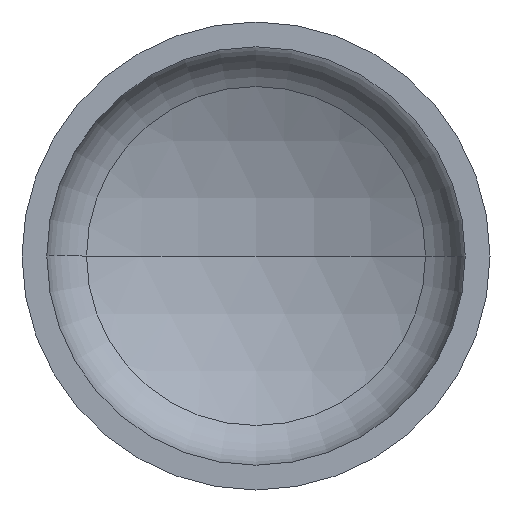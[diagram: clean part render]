
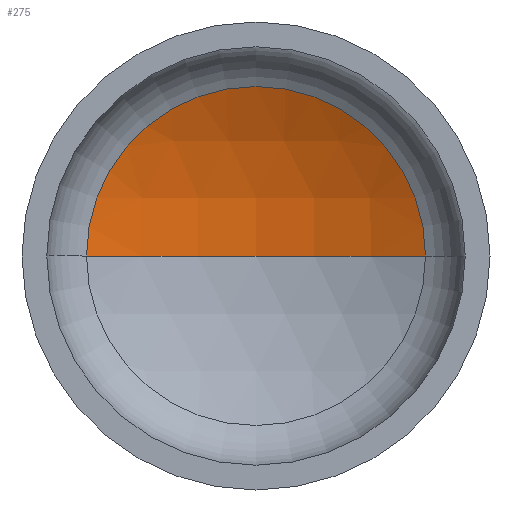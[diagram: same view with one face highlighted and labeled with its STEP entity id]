
A CAD part, front view. The second image highlights one B-rep face of the part: STEP entity #275.
In plain terms, the highlighted spherical face has radius 1600 mm.
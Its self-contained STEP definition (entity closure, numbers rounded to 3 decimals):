
#10 = VERTEX_POINT ( 'NONE', #263 ) ;
#15 = ORIENTED_EDGE ( 'NONE', *, *, #227, .F. ) ;
#29 = AXIS2_PLACEMENT_3D ( 'NONE', #141, #118, #144 ) ;
#37 = VERTEX_POINT ( 'NONE', #233 ) ;
#49 = AXIS2_PLACEMENT_3D ( 'NONE', #162, #109, #110 ) ;
#53 = AXIS2_PLACEMENT_3D ( 'NONE', #166, #165, #59 ) ;
#54 = AXIS2_PLACEMENT_3D ( 'NONE', #73, #69, #64 ) ;
#56 = CIRCLE ( 'NONE', #53, 724.341 ) ;
#59 = DIRECTION ( 'NONE',  ( 1., 0., 0. ) ) ;
#64 = DIRECTION ( 'NONE',  ( -1., 0., 0. ) ) ;
#69 = DIRECTION ( 'NONE',  ( 0., 0., -1. ) ) ;
#73 = CARTESIAN_POINT ( 'NONE',  ( 0., -1075.236, 0. ) ) ;
#109 = DIRECTION ( 'NONE',  ( 0., 0., 1. ) ) ;
#110 = DIRECTION ( 'NONE',  ( 1., 0., 0. ) ) ;
#118 = DIRECTION ( 'NONE',  ( 0., 0., -1. ) ) ;
#141 = CARTESIAN_POINT ( 'NONE',  ( 0., -1075.236, 0. ) ) ;
#144 = DIRECTION ( 'NONE',  ( -1., 0., 0. ) ) ;
#161 = CIRCLE ( 'NONE', #54, 1600. ) ;
#162 = CARTESIAN_POINT ( 'NONE',  ( 0., -1075.236, 0. ) ) ;
#165 = DIRECTION ( 'NONE',  ( 0., -1., 0. ) ) ;
#166 = CARTESIAN_POINT ( 'NONE',  ( 0., 351.413, 0. ) ) ;
#205 = EDGE_CURVE ( 'NONE', #10, #396, #56, .T. ) ;
#211 = EDGE_CURVE ( 'NONE', #37, #10, #161, .T. ) ;
#226 = EDGE_LOOP ( 'NONE', ( #15, #377, #284 ) ) ;
#227 = EDGE_CURVE ( 'NONE', #37, #396, #231, .T. ) ;
#231 = CIRCLE ( 'NONE', #49, 1600. ) ;
#233 = CARTESIAN_POINT ( 'NONE',  ( 0., 524.764, 0. ) ) ;
#263 = CARTESIAN_POINT ( 'NONE',  ( 724.341, 351.413, 0. ) ) ;
#275 = ADVANCED_FACE ( 'NONE', ( #368 ), #289, .F. ) ;
#284 = ORIENTED_EDGE ( 'NONE', *, *, #205, .T. ) ;
#289 = SPHERICAL_SURFACE ( 'NONE', #29, 1600. ) ;
#313 = CARTESIAN_POINT ( 'NONE',  ( -724.341, 351.413, 0. ) ) ;
#368 = FACE_OUTER_BOUND ( 'NONE', #226, .T. ) ;
#377 = ORIENTED_EDGE ( 'NONE', *, *, #211, .T. ) ;
#396 = VERTEX_POINT ( 'NONE', #313 ) ;
